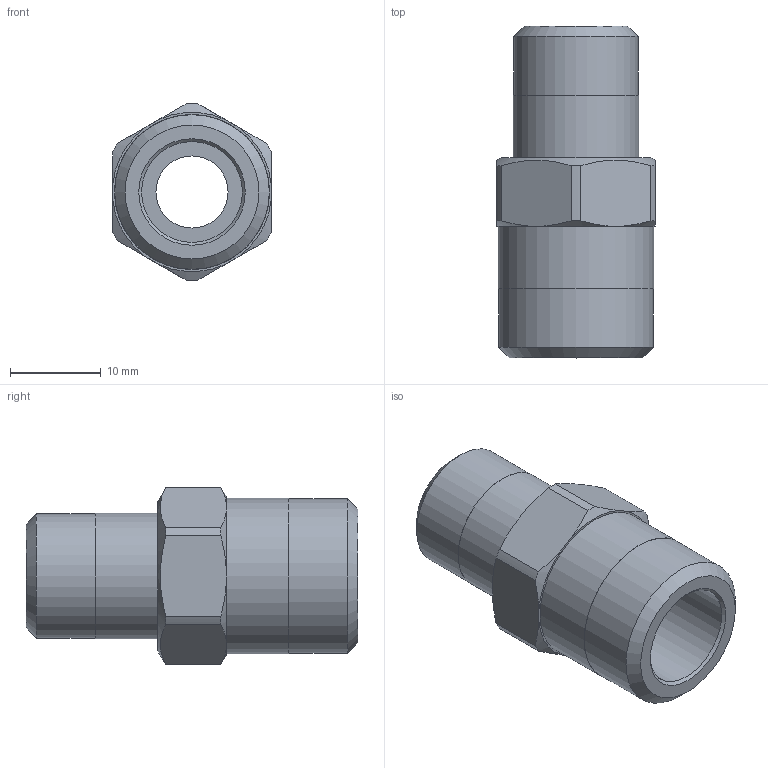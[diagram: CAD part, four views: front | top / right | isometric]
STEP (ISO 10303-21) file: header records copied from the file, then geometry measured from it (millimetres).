
FILE_DESCRIPTION(/* description */ (''),/* implementation_level */ '2;1');
FILE_NAME(/* name */ 'C:/Users/drich/Desktop/MR38-4 v1.step',/* time_stamp */ '2020-02-09T10:57:59-06:00',/* author */ (''),/* organization */ (''),/* preprocessor_version */ 'ST-DEVELOPER v18',/* originating_system */ 'Autodesk Translation Framework v8.12.0.6',/* authorisation */ '');
FILE_SCHEMA (('AUTOMOTIVE_DESIGN { 1 0 10303 214 3 1 1 }'));
Length unit declared in the file: inch
Products named in the file (1): MR38-4
Bounding box: 17.45 x 36.5 x 19.56 mm (x, y, z)
Volume: 4734.9 mm3; surface area: 3242.4 mm2
Topology: 1 solids, 1 shells, 36 faces, 95 edges, 66 vertices
Faces by surface type: plane 13, cylinder 12, cone 11
Full cylindrical faces by diameter (mm): 7.925 x1, 11.1 x1, 13.716 x1, 13.767 x1, 17.018 x1, 17.069 x1
Entity records: 1179 total; most frequent: CARTESIAN_POINT 234, DIRECTION 199, ORIENTED_EDGE 190, EDGE_CURVE 95, AXIS2_PLACEMENT_3D 85, VERTEX_POINT 66, CIRCLE 48, EDGE_LOOP 43
